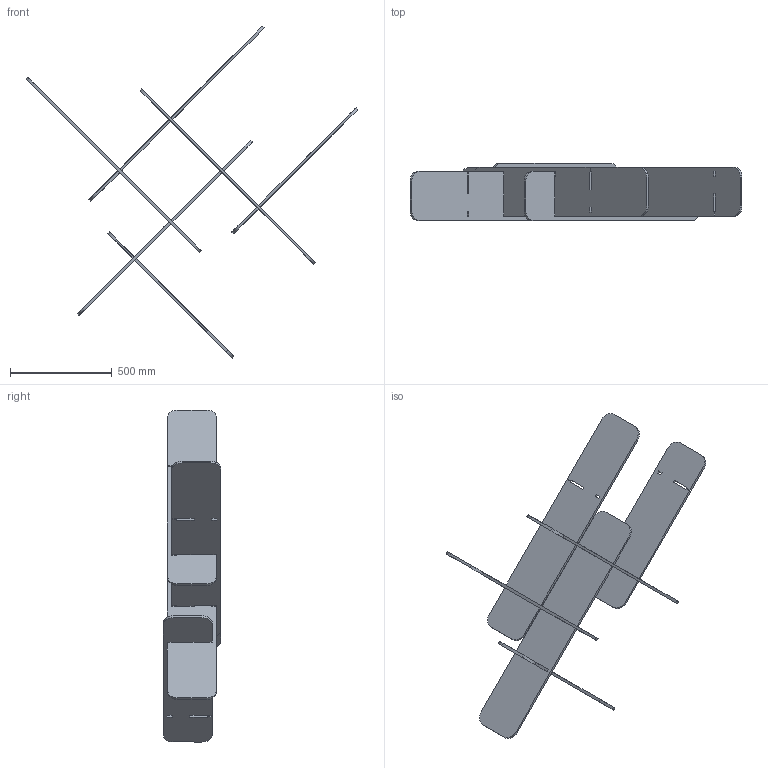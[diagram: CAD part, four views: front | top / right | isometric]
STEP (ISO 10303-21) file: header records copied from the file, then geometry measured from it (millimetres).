
FILE_DESCRIPTION(/* description */ (''),/* implementation_level */ '2;1');
FILE_NAME(/* name */ 'Y:\Design and Engineering\MaterialLogiq\CAD ASSETS\MASTER\GRAFFLE\WEB ASSETS\PET GRAFFLE_4x4_FLAT_ROUND.stp',/* time_stamp */ '2023-11-14T12:54:18-06:00',/* author */ ('Grant Baker'),/* organization */ (''),/* preprocessor_version */ 'ST-DEVELOPER v19',/* originating_system */ 'Autodesk Inventor 2023',/* authorisation */ '');
FILE_SCHEMA (('AUTOMOTIVE_DESIGN { 1 0 10303 214 3 1 1 }'));
Length unit declared in the file: inch
Products named in the file (4): PET GRAFFLE_4x4_FLAT_ROUND; PET GRAFFLE_4x4_A_FLAT_ROUND; PET GRAFFLE_4x4_B_FLAT_ROUND; PET GRAFFLE_4x4_LINK_FLAT_ROUND
Assembly tree (6 placements, depth 2):
  PET GRAFFLE_4x4_FLAT_ROUND
    PET GRAFFLE_4x4_LINK_FLAT_ROUND  x2
    PET GRAFFLE_4x4_A_FLAT_ROUND  x2
    PET GRAFFLE_4x4_B_FLAT_ROUND  x2
Bounding box: 1629.99 x 282.95 x 1629.99 mm (x, y, z)
Volume: 18844429.1 mm3; surface area: 3339651.1 mm2
Topology: 6 solids, 6 shells, 252 faces, 720 edges, 480 vertices
Faces by surface type: plane 228, cylinder 24
Entity records: 4251 total; most frequent: CARTESIAN_POINT 736, ORIENTED_EDGE 720, DIRECTION 656, EDGE_CURVE 360, LINE 336, VECTOR 336, VERTEX_POINT 240, AXIS2_PLACEMENT_3D 160
